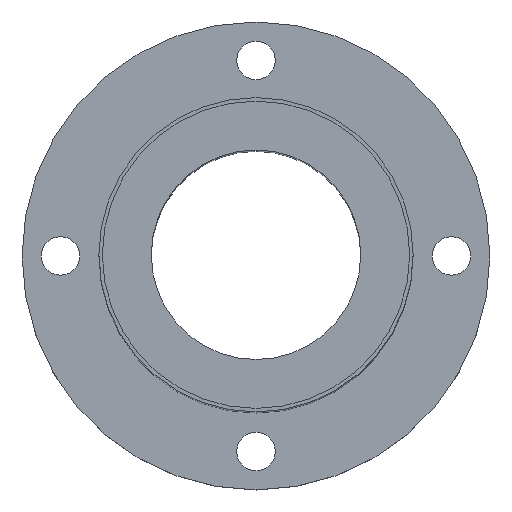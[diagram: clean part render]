
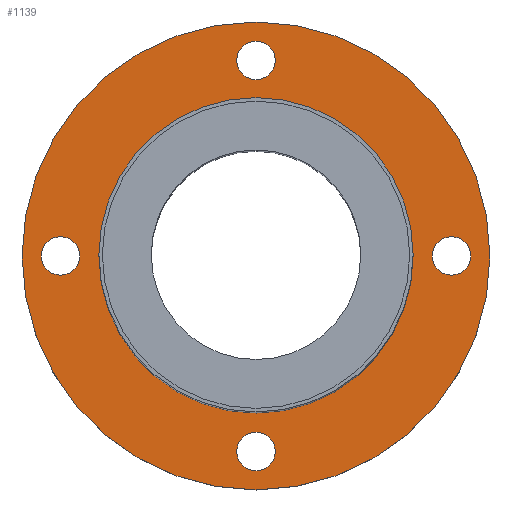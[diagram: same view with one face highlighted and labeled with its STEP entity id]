
A CAD part, top view. The second image highlights one B-rep face of the part: STEP entity #1139.
In plain terms, the highlighted planar face has unit normal (0, 0, 1).
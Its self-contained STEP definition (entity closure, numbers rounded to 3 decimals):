
#51=CARTESIAN_POINT('',(-67.0,-0.1,18.0));
#52=VERTEX_POINT('',#51);
#68=CARTESIAN_POINT('',(67.0,-0.1,18.0));
#69=VERTEX_POINT('',#68);
#76=CARTESIAN_POINT('',(0.0,-0.1,18.0));
#77=DIRECTION('',(0.0,0.0,-1.0));
#78=DIRECTION('',(-1.0,0.0,0.0));
#79=AXIS2_PLACEMENT_3D('',#76,#77,#78);
#80=CIRCLE('',#79,67.0);
#81=EDGE_CURVE('',#69,#52,#80,.T.);
#133=CARTESIAN_POINT('',(-45.0,-0.1,18.0));
#134=VERTEX_POINT('',#133);
#143=CARTESIAN_POINT('',(45.0,-0.1,18.0));
#144=VERTEX_POINT('',#143);
#145=CARTESIAN_POINT('',(0.0,-0.1,18.0));
#146=DIRECTION('',(0.0,0.0,-1.0));
#147=DIRECTION('',(-1.0,0.0,0.0));
#148=AXIS2_PLACEMENT_3D('',#145,#146,#147);
#149=CIRCLE('',#148,45.0);
#150=EDGE_CURVE('',#144,#134,#149,.T.);
#345=CARTESIAN_POINT('',(0.0,50.4,18.0));
#346=VERTEX_POINT('',#345);
#362=CARTESIAN_POINT('',(0.,61.4,18.0));
#363=VERTEX_POINT('',#362);
#370=CARTESIAN_POINT('',(0.0,55.9,18.0));
#371=DIRECTION('',(0.0,0.0,-1.0));
#372=DIRECTION('',(0.0,-1.0,0.0));
#373=AXIS2_PLACEMENT_3D('',#370,#371,#372);
#374=CIRCLE('',#373,5.5);
#375=EDGE_CURVE('',#346,#363,#374,.T.);
#429=CARTESIAN_POINT('',(-50.5,-0.1,18.0));
#430=VERTEX_POINT('',#429);
#446=CARTESIAN_POINT('',(-61.5,-0.1,18.0));
#447=VERTEX_POINT('',#446);
#454=CARTESIAN_POINT('',(-56.,-0.1,18.0));
#455=DIRECTION('',(0.0,0.0,-1.0));
#456=DIRECTION('',(1.0,0.0,0.0));
#457=AXIS2_PLACEMENT_3D('',#454,#455,#456);
#458=CIRCLE('',#457,5.5);
#459=EDGE_CURVE('',#430,#447,#458,.T.);
#513=CARTESIAN_POINT('',(0.,-50.6,18.0));
#514=VERTEX_POINT('',#513);
#530=CARTESIAN_POINT('',(0.,-61.6,18.0));
#531=VERTEX_POINT('',#530);
#538=CARTESIAN_POINT('',(0.,-56.1,18.0));
#539=DIRECTION('',(0.0,0.0,-1.0));
#540=DIRECTION('',(0.0,1.0,0.0));
#541=AXIS2_PLACEMENT_3D('',#538,#539,#540);
#542=CIRCLE('',#541,5.5);
#543=EDGE_CURVE('',#514,#531,#542,.T.);
#597=CARTESIAN_POINT('',(50.5,-0.1,18.0));
#598=VERTEX_POINT('',#597);
#614=CARTESIAN_POINT('',(61.5,-0.1,18.0));
#615=VERTEX_POINT('',#614);
#622=CARTESIAN_POINT('',(56.,-0.1,18.0));
#623=DIRECTION('',(0.0,0.0,-1.0));
#624=DIRECTION('',(-1.0,0.0,0.0));
#625=AXIS2_PLACEMENT_3D('',#622,#623,#624);
#626=CIRCLE('',#625,5.5);
#627=EDGE_CURVE('',#598,#615,#626,.T.);
#638=CARTESIAN_POINT('',(56.,-0.1,18.0));
#639=DIRECTION('',(0.0,0.0,-1.0));
#640=DIRECTION('',(-1.0,0.0,0.0));
#641=AXIS2_PLACEMENT_3D('',#638,#639,#640);
#642=CIRCLE('',#641,5.5);
#643=EDGE_CURVE('',#615,#598,#642,.T.);
#700=CARTESIAN_POINT('',(0.,-56.1,18.0));
#701=DIRECTION('',(0.0,0.0,-1.0));
#702=DIRECTION('',(0.0,1.0,0.0));
#703=AXIS2_PLACEMENT_3D('',#700,#701,#702);
#704=CIRCLE('',#703,5.5);
#705=EDGE_CURVE('',#531,#514,#704,.T.);
#762=CARTESIAN_POINT('',(-56.,-0.1,18.0));
#763=DIRECTION('',(0.0,0.0,-1.0));
#764=DIRECTION('',(1.0,0.0,0.0));
#765=AXIS2_PLACEMENT_3D('',#762,#763,#764);
#766=CIRCLE('',#765,5.5);
#767=EDGE_CURVE('',#447,#430,#766,.T.);
#824=CARTESIAN_POINT('',(0.0,55.9,18.0));
#825=DIRECTION('',(0.0,0.0,-1.0));
#826=DIRECTION('',(0.0,-1.0,0.0));
#827=AXIS2_PLACEMENT_3D('',#824,#825,#826);
#828=CIRCLE('',#827,5.5);
#829=EDGE_CURVE('',#363,#346,#828,.T.);
#1056=CARTESIAN_POINT('',(0.0,-0.1,18.0));
#1057=DIRECTION('',(0.0,0.0,-1.0));
#1058=DIRECTION('',(-1.0,0.0,0.0));
#1059=AXIS2_PLACEMENT_3D('',#1056,#1057,#1058);
#1060=CIRCLE('',#1059,45.0);
#1061=EDGE_CURVE('',#134,#144,#1060,.T.);
#1098=CARTESIAN_POINT('',(0.0,-0.1,18.0));
#1099=DIRECTION('',(0.0,0.0,-1.0));
#1100=DIRECTION('',(-1.0,0.0,0.0));
#1101=AXIS2_PLACEMENT_3D('',#1098,#1099,#1100);
#1102=CIRCLE('',#1101,67.0);
#1103=EDGE_CURVE('',#52,#69,#1102,.T.);
#1110=CARTESIAN_POINT('',(0.0,-0.1,18.0));
#1111=DIRECTION('',(0.0,0.0,-1.0));
#1112=DIRECTION('',(-1.0,0.0,0.0));
#1113=AXIS2_PLACEMENT_3D('',#1110,#1111,#1112);
#1114=PLANE('',#1113);
#1115=ORIENTED_EDGE('',*,*,#81,.F.);
#1116=ORIENTED_EDGE('',*,*,#1103,.F.);
#1117=EDGE_LOOP('',(#1115,#1116));
#1118=FACE_OUTER_BOUND('',#1117,.T.);
#1119=ORIENTED_EDGE('',*,*,#627,.T.);
#1120=ORIENTED_EDGE('',*,*,#643,.T.);
#1121=EDGE_LOOP('',(#1119,#1120));
#1122=FACE_BOUND('',#1121,.T.);
#1123=ORIENTED_EDGE('',*,*,#543,.T.);
#1124=ORIENTED_EDGE('',*,*,#705,.T.);
#1125=EDGE_LOOP('',(#1123,#1124));
#1126=FACE_BOUND('',#1125,.T.);
#1127=ORIENTED_EDGE('',*,*,#459,.T.);
#1128=ORIENTED_EDGE('',*,*,#767,.T.);
#1129=EDGE_LOOP('',(#1127,#1128));
#1130=FACE_BOUND('',#1129,.T.);
#1131=ORIENTED_EDGE('',*,*,#375,.T.);
#1132=ORIENTED_EDGE('',*,*,#829,.T.);
#1133=EDGE_LOOP('',(#1131,#1132));
#1134=FACE_BOUND('',#1133,.T.);
#1135=ORIENTED_EDGE('',*,*,#150,.T.);
#1136=ORIENTED_EDGE('',*,*,#1061,.T.);
#1137=EDGE_LOOP('',(#1135,#1136));
#1138=FACE_BOUND('',#1137,.T.);
#1139=ADVANCED_FACE('',(#1118,#1122,#1126,#1130,#1134,#1138),#1114,.F.);
